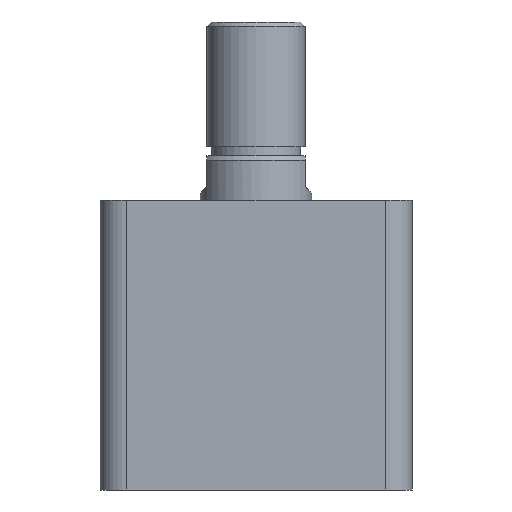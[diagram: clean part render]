
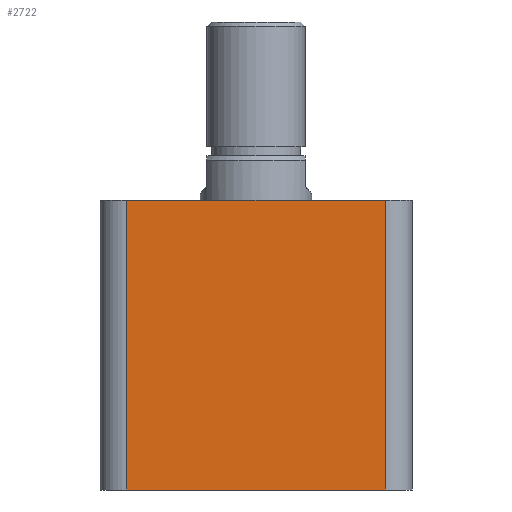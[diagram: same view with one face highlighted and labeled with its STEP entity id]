
A CAD part, front view. The second image highlights one B-rep face of the part: STEP entity #2722.
In plain terms, the highlighted planar face has unit normal (0, -1, 0).
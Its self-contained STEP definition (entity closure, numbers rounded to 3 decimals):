
#23 = VERTEX_POINT ( 'NONE', #1779 ) ;
#330 = EDGE_LOOP ( 'NONE', ( #658, #659, #660, #661 ) ) ;
#461 = FACE_OUTER_BOUND ( 'NONE', #330, .T. ) ;
#658 = ORIENTED_EDGE ( 'NONE', *, *, #1253, .F. ) ;
#659 = ORIENTED_EDGE ( 'NONE', *, *, #1216, .T. ) ;
#660 = ORIENTED_EDGE ( 'NONE', *, *, #1217, .T. ) ;
#661 = ORIENTED_EDGE ( 'NONE', *, *, #1218, .T. ) ;
#731 = VERTEX_POINT ( 'NONE', #2249 ) ;
#732 = VERTEX_POINT ( 'NONE', #2248 ) ;
#735 = VERTEX_POINT ( 'NONE', #2239 ) ;
#1216 = EDGE_CURVE ( 'NONE', #23, #731, #1465, .T. ) ;
#1217 = EDGE_CURVE ( 'NONE', #731, #735, #1460, .T. ) ;
#1218 = EDGE_CURVE ( 'NONE', #735, #732, #1462, .T. ) ;
#1253 = EDGE_CURVE ( 'NONE', #23, #732, #1428, .T. ) ;
#1425 = VECTOR ( 'NONE', #2131, 1000. ) ;
#1428 = LINE ( 'NONE', #2106, #1425 ) ;
#1460 = LINE ( 'NONE', #2111, #1463 ) ;
#1461 = VECTOR ( 'NONE', #2112, 1000. ) ;
#1462 = LINE ( 'NONE', #2072, #1466 ) ;
#1463 = VECTOR ( 'NONE', #2077, 1000. ) ;
#1465 = LINE ( 'NONE', #2098, #1461 ) ;
#1466 = VECTOR ( 'NONE', #2069, 1000. ) ;
#1721 = AXIS2_PLACEMENT_3D ( 'NONE', #2587, #2583, #2578 ) ;
#1779 = CARTESIAN_POINT ( 'NONE',  ( -29., -35., 65. ) ) ;
#2069 = DIRECTION ( 'NONE',  ( 0., 0., 1. ) ) ;
#2072 = CARTESIAN_POINT ( 'NONE',  ( 29., -35., 65. ) ) ;
#2077 = DIRECTION ( 'NONE',  ( 1., 0., 0. ) ) ;
#2098 = CARTESIAN_POINT ( 'NONE',  ( -29., -35., 65. ) ) ;
#2106 = CARTESIAN_POINT ( 'NONE',  ( -35., -35., 65. ) ) ;
#2111 = CARTESIAN_POINT ( 'NONE',  ( -35., -35., 0. ) ) ;
#2112 = DIRECTION ( 'NONE',  ( 0., 0., -1. ) ) ;
#2131 = DIRECTION ( 'NONE',  ( 1., 0., 0. ) ) ;
#2239 = CARTESIAN_POINT ( 'NONE',  ( 29., -35., 0. ) ) ;
#2248 = CARTESIAN_POINT ( 'NONE',  ( 29., -35., 65. ) ) ;
#2249 = CARTESIAN_POINT ( 'NONE',  ( -29., -35., 0. ) ) ;
#2578 = DIRECTION ( 'NONE',  ( 0., 0., 1. ) ) ;
#2582 = PLANE ( 'NONE',  #1721 ) ;
#2583 = DIRECTION ( 'NONE',  ( 0., 1., 0. ) ) ;
#2587 = CARTESIAN_POINT ( 'NONE',  ( -35., -35., 65. ) ) ;
#2722 = ADVANCED_FACE ( 'NONE', ( #461 ), #2582, .F. ) ;
